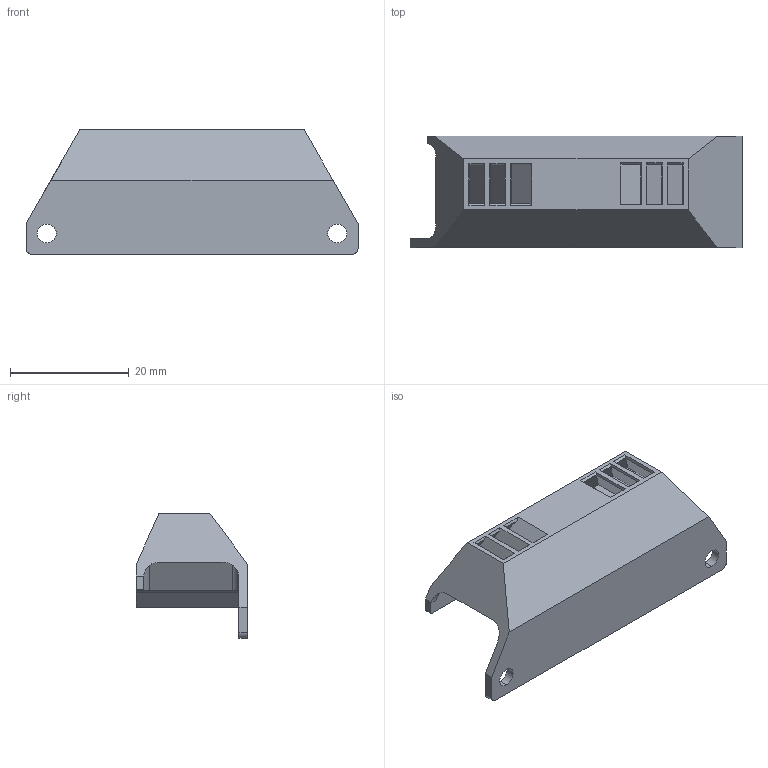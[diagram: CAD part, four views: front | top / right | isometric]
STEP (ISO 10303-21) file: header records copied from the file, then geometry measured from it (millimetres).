
FILE_DESCRIPTION (( 'STEP AP203' ), '1' );
FILE_NAME ('BR01_HIP_COVER_A_RevC_M.STEP');
FILE_SCHEMA (( 'CONFIG_CONTROL_DESIGN' ));
Length unit declared in the file: millimetre
Products named in the file (1): BR01_HIP_COVER_A_RevC_M
Bounding box: 56 x 18.8 x 21 mm (x, y, z)
Volume: 3274.6 mm3; surface area: 5307.3 mm2
Topology: 1 solids, 1 shells, 127 faces, 320 edges, 199 vertices
Faces by surface type: plane 79, cylinder 34, sphere 10, bspline 4
Entity records: 3869 total; most frequent: CARTESIAN_POINT 787, ORIENTED_EDGE 636, DIRECTION 601, EDGE_CURVE 318, VECTOR 243, LINE 243, VERTEX_POINT 199, AXIS2_PLACEMENT_3D 179
